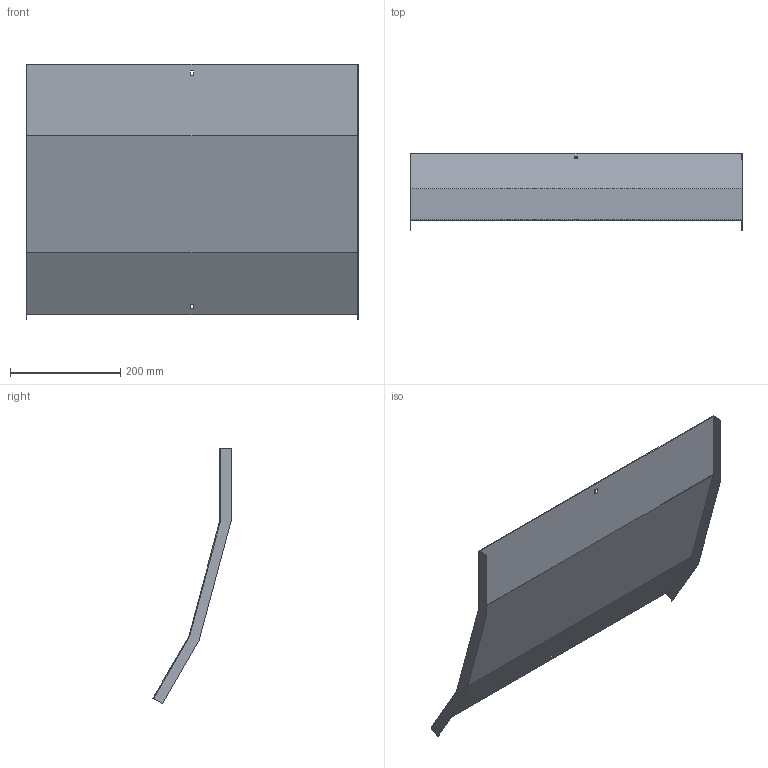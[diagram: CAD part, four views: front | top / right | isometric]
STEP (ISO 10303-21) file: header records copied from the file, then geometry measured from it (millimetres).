
FILE_DESCRIPTION (( 'STEP AP214' ), '1' );
FILE_NAME ('32N5R600_H150.step', '2025-02-21T14:28:16', ( '' ), ( '' ), 'SwSTEP 2.0', 'SolidWorks 2023', '' );
FILE_SCHEMA (( 'AUTOMOTIVE_DESIGN' ));
Length unit declared in the file: millimetre
Products named in the file (1): 32N5R600_H150
Bounding box: 603 x 141.68 x 464.12 mm (x, y, z)
Volume: 460335.9 mm3; surface area: 617261.6 mm2
Topology: 1 solids, 1 shells, 26 faces, 72 edges, 48 vertices
Faces by surface type: plane 26
Entity records: 847 total; most frequent: CARTESIAN_POINT 147, ORIENTED_EDGE 144, DIRECTION 126, LINE 72, EDGE_CURVE 72, VECTOR 72, VERTEX_POINT 48, EDGE_LOOP 30
